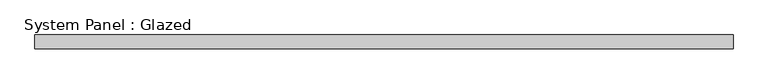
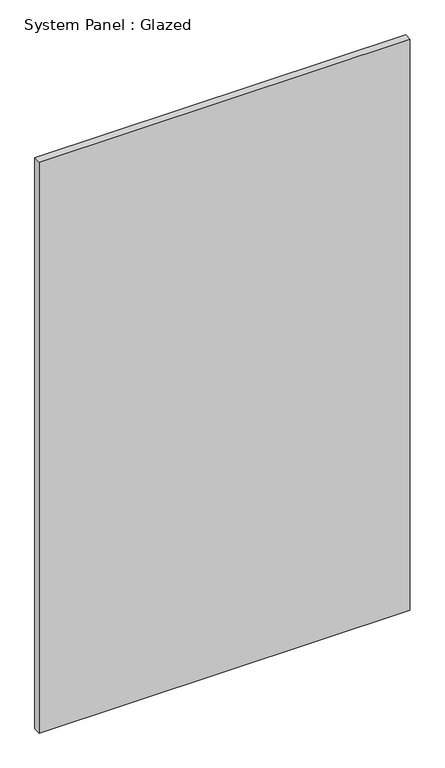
"""IFC4 building model written with IfcOpenShell, lengths in millimetres: plate geometry, System Panel : Glazed."""

from ifc_helpers import new_model, si_unit, origin, origin_with_axes, place, context, project, spatial, polyline, outline, extrude, source, transform, mapped, element, save


def system_panel_glazed_48263e64(model_context):
    return source(origin(), model_context, "Body", "SweptSolid", [
        extrude(outline(polyline([(632.7777778, -49.5), (-632.7777778, -49.5), (-632.7777778, -24.5), (632.7777778, -24.5), (632.7777778, -49.5)])), origin_with_axes(), (0.0, 0.0, 1.0), 2058.6),
    ])


if __name__ == "__main__":
    model = new_model("IFC4")
    model_context = context("Model", 3, world=origin())
    ifc_project = project(units=[si_unit("LENGTHUNIT", "METRE", prefix="MILLI")], contexts=[model_context])
    site = spatial("IfcSite", under=ifc_project)
    building = spatial("IfcBuilding", under=site)
    placement = place(None, origin())
    system_panel_glazed_shape = system_panel_glazed_48263e64(model_context)
    element("IfcPlate", 1, ObjectType="System Panel : Glazed", at=placement, inside=building, context=model_context, shape_type="MappedRepresentation", body=[
        mapped(system_panel_glazed_shape, transform((0.0, 0.0, 0.0), x_axis=(1.0, 0.0, 0.0), y_axis=(0.0, 1.0, 0.0), z_axis=(0.0, 0.0, 1.0))),
    ])
    save(model, "model.ifc")
